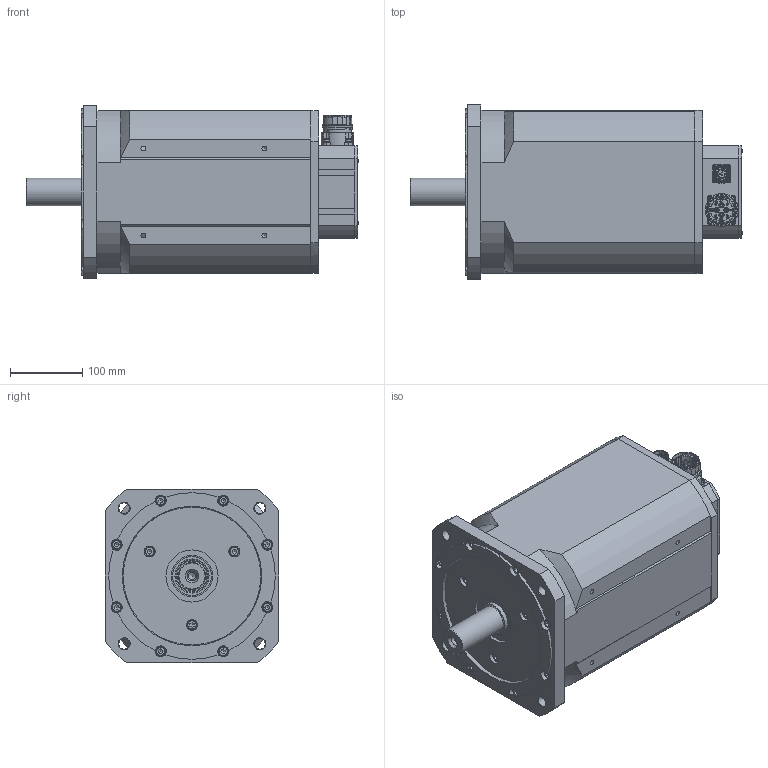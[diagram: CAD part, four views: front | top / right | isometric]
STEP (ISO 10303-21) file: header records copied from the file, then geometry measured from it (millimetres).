
FILE_DESCRIPTION(/* description */ (''),/* implementation_level */ '2;1');
FILE_NAME(/* name */ 'V:\8\T8000 00 B\T8000 00 B Z_0400.stp',/* time_stamp */ '2019-12-11T14:08:24+01:00',/* author */ ('simik'),/* organization */ (''),/* preprocessor_version */ 'ST-DEVELOPER v18',/* originating_system */ 'Autodesk Inventor 2020',/* authorisation */ '');
FILE_SCHEMA (('AUTOMOTIVE_DESIGN { 1 0 10303 214 3 1 1 }'));
Products named in the file (5): T8000 00 B Z; T8000 00 B Z_0400,0680; T8000 00 B Z_0400; 115772; 127344
Assembly tree (4 placements, depth 2):
  T8000 00 B Z
    T8000 00 B Z_0400,0680
    T8000 00 B Z_0400
    115772
    127344
Bounding box: 458.29 x 240 x 240 mm (x, y, z)
Volume: 5727955 mm3; surface area: 822892.4 mm2
Topology: 5 solids, 36 shells, 2409 faces, 6593 edges, 4367 vertices
Faces by surface type: plane 820, cylinder 742, bspline 290, cone 280, torus 238, sphere 39
Full cylindrical faces by diameter (mm): 1 x12, 1.18 x12, 2 x4, 2.013 x4, 2.208 x4, 2.4 x4, 2.459 x6, 2.5 x4, 2.7 x4, 3.242 x11, 3.545 x4, 3.6 x5, 3.95 x4, 4 x11, 4.3 x8, 4.917 x8, 5 x4, 6 x8, 6.5 x8, 6.647 x16, 7 x4, 7.5 x4, 8 x15, 8.4 x11, 8.5 x4, 10 x8, 10.106 x1, 11 x8, 13 x12, 15 x15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
Entity records: 92403 total; most frequent: CARTESIAN_POINT 28880, ORIENTED_EDGE 13006, DIRECTION 12825, EDGE_CURVE 6503, AXIS2_PLACEMENT_3D 5246, VERTEX_POINT 4383, CIRCLE 2905, EDGE_LOOP 2748
